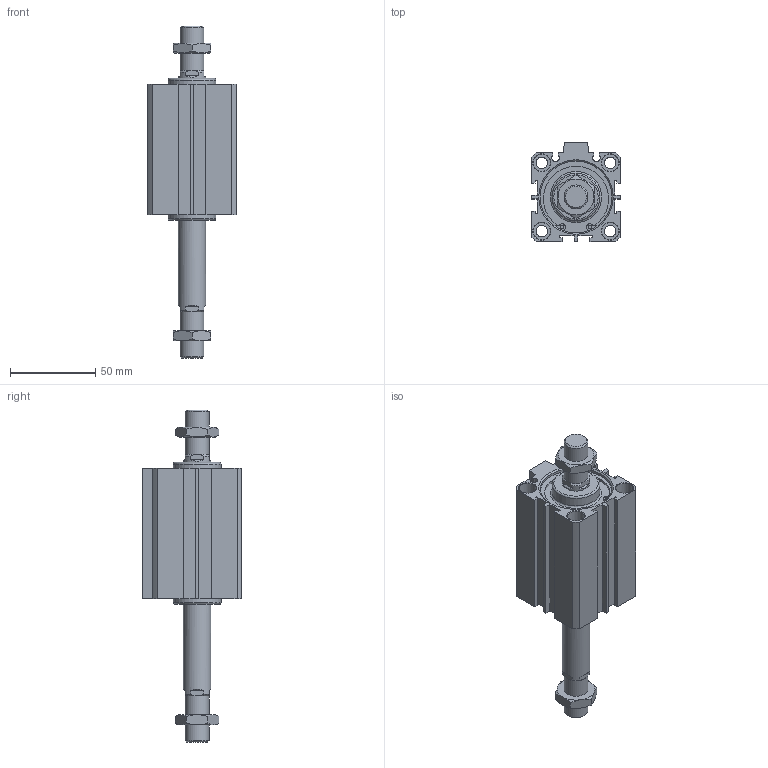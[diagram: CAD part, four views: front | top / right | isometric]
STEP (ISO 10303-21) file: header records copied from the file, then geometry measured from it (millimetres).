
FILE_DESCRIPTION((''),'2;1');
FILE_NAME('I:\3D電子目錄\氣缸\JDD\JDD-B\JDD40-B\JDD40x50-B.stp','2007-02-09T16:55:57',('662F206'),(''),'Autodesk Inventor 10','Autodesk Inventor 10','');
FILE_SCHEMA(('AUTOMOTIVE_DESIGN { 1 0 10303 214 1 1 1 1 }'));
Length unit declared in the file: millimetre
Products named in the file (3): JDD40-B; R 形環 42
Assembly tree (3 placements, depth 2):
  JDD40-B
    JDD40-B
    R 形環 42  x2
Bounding box: 52 x 58 x 194.5 mm (x, y, z)
Volume: 204070.3 mm3; surface area: 46549.5 mm2
Topology: 3 solids, 3 shells, 206 faces, 486 edges, 312 vertices
Faces by surface type: plane 114, cylinder 50, cone 38, bspline 2, torus 2
Full cylindrical faces by diameter (mm): 1.9 x4, 2.2 x2, 6.8 x4, 10 x8, 14 x4, 16 x2, 28 x2, 42 x4, 44.5 x2
Entity records: 5343 total; most frequent: CARTESIAN_POINT 1072, DIRECTION 880, ORIENTED_EDGE 792, EDGE_CURVE 396, AXIS2_PLACEMENT_3D 338, VERTEX_POINT 284, EDGE_LOOP 284, VECTOR 204
